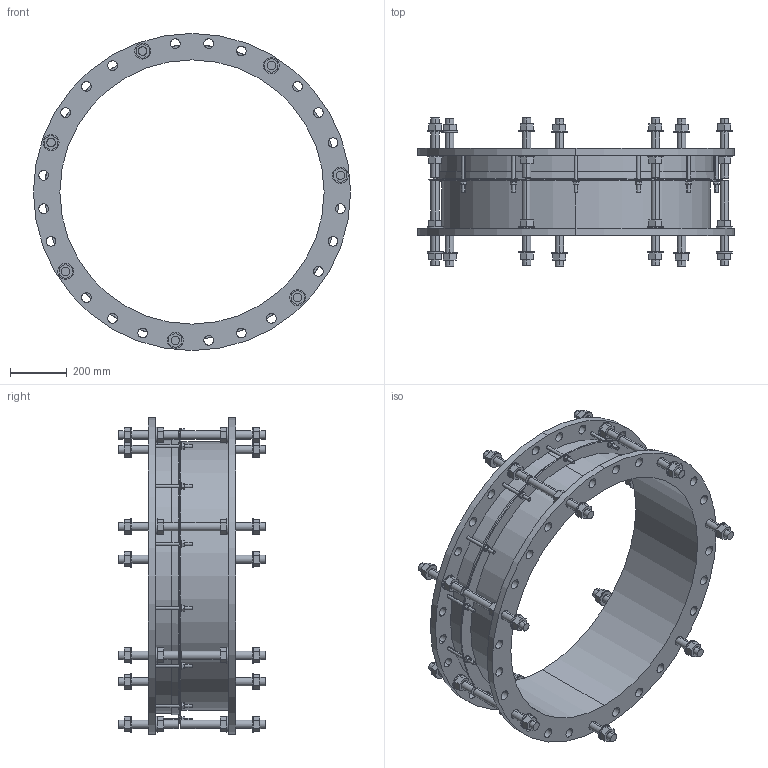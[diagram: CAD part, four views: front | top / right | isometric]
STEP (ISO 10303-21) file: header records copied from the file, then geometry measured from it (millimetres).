
FILE_DESCRIPTION((''),'2;1');
FILE_NAME('YF2_DJ_BIM_ASM','2020-11-25T',('mfairey'),('Glynwed Pipe Systems'),'CREO PARAMETRIC BY PTC INC, 2016130','CREO PARAMETRIC BY PTC INC, 2016130','');
FILE_SCHEMA(('CONFIG_CONTROL_DESIGN'));
Length unit declared in the file: millimetre
Products named in the file (9): DJ_AF0; TIE_BOLT_BIM_AF0; TIE_BOLT_BIM_AF1; TIE_BOLT_BIM_AF2; TIE_BOLT_BIM_AF3; TIE_BOLT_BIM_AF4; TIE_BOLT_BIM_AF5; TIE_BOLT_BIM_AF7; YF2_DJ_BIM_ASM
Assembly tree (8 placements, depth 2):
  YF2_DJ_BIM_ASM
    DJ_AF0
    TIE_BOLT_BIM_AF0
    TIE_BOLT_BIM_AF1
    TIE_BOLT_BIM_AF2
    TIE_BOLT_BIM_AF3
    TIE_BOLT_BIM_AF4
    TIE_BOLT_BIM_AF5
    TIE_BOLT_BIM_AF7
Bounding box: 1115 x 520 x 1115 mm (x, y, z)
Volume: 26789125.5 mm3; surface area: 3821810.5 mm2
Topology: 15 solids, 15 shells, 788 faces, 1902 edges, 1258 vertices
Faces by surface type: plane 426, cylinder 358, cone 4
Entity records: 24652 total; most frequent: CARTESIAN_POINT 5042, DIRECTION 4218, ORIENTED_EDGE 3804, EDGE_CURVE 1902, AXIS2_PLACEMENT_3D 1549, VERTEX_POINT 1258, VECTOR 1120, LINE 1120
